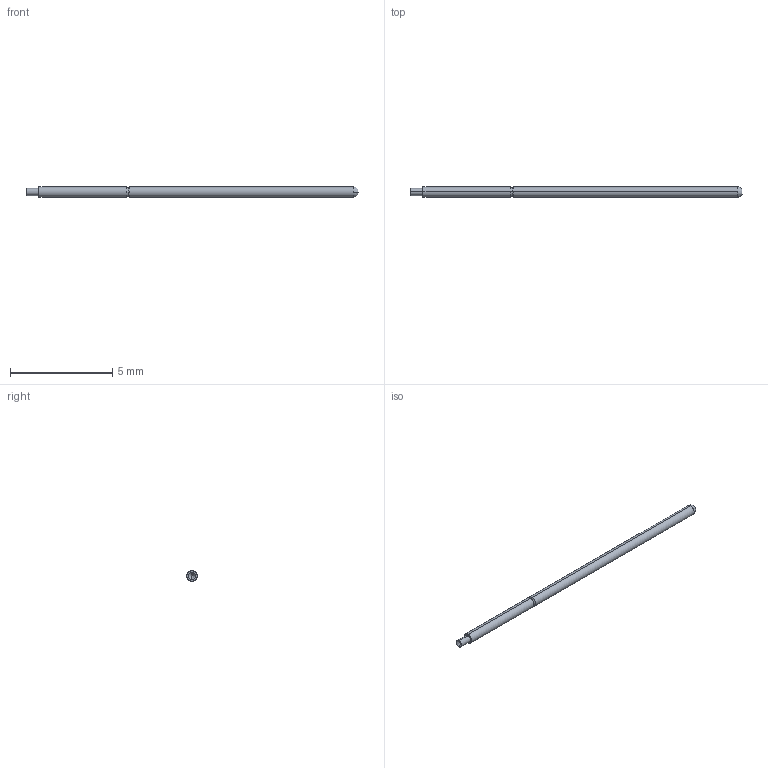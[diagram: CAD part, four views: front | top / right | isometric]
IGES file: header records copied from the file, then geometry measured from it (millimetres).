
Start section: SolidWorks IGES file using analytic representation for surfaces
Global section: file name: Z:\probe solid model mockups\Solidworks models\MEP-30 IGS files\MEP-30G RECD.IGS; native system: SolidWorks 2006 by SolidWorks Corporation; preprocessor: SolidWorks 2006 by SolidWorks Corporation; author: tsakatani; date: 071219.101450; units: inch
Bounding box: 16.26 x 0.51 x 0.51 mm (x, y, z)
Surface area: 26 mm2 (no closed solid volume)
Topology: 0 solids, 0 shells, 16 faces, 108 edges, 106 vertices
Faces by surface type: revolution 10, bspline 6
